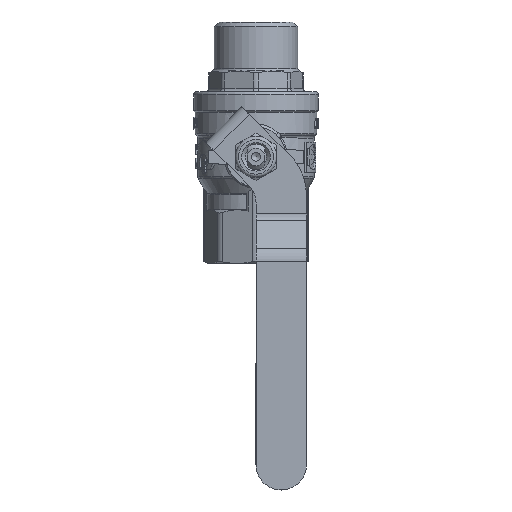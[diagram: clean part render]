
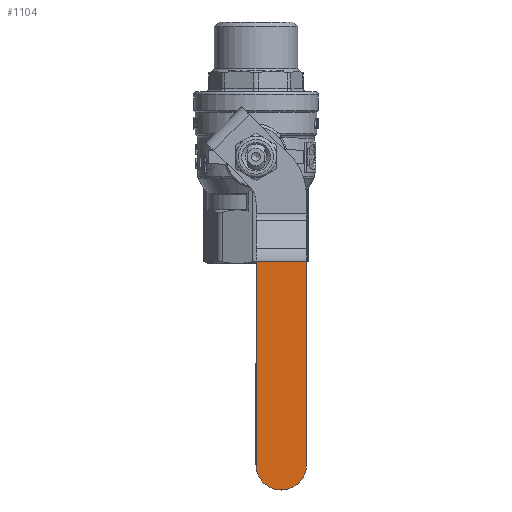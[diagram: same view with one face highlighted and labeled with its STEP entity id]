
A CAD part, top view. The second image highlights one B-rep face of the part: STEP entity #1104.
In plain terms, the highlighted planar face has unit normal (0, 0, 1).
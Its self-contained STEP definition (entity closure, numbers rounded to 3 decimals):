
#1104=ADVANCED_FACE('',(#8808),#8810,.T.);
#8808=FACE_BOUND('',#8809,.T.);
#8809=EDGE_LOOP('',(#16235,#16236,#16237,#16238));
#8810=PLANE('',#8811);
#8811=AXIS2_PLACEMENT_3D('',#8812,#8813,#8814);
#8812=CARTESIAN_POINT('',(0.,-13.851,49.885));
#8813=DIRECTION('',(0.,0.,1.));
#8814=DIRECTION('',(0.,-1.,0.));
#16235=ORIENTED_EDGE('',*,*,#19232,.F.);
#16236=ORIENTED_EDGE('',*,*,#19229,.T.);
#16237=ORIENTED_EDGE('',*,*,#19221,.T.);
#16238=ORIENTED_EDGE('',*,*,#19231,.T.);
#19221=EDGE_CURVE('',#24018,#24026,#24029,.T.);
#19229=EDGE_CURVE('',#24036,#24018,#24038,.T.);
#19231=EDGE_CURVE('',#24026,#24039,#24041,.T.);
#19232=EDGE_CURVE('',#24036,#24039,#24042,.F.);
#24018=VERTEX_POINT('',#49705);
#24026=VERTEX_POINT('',#49725);
#24029=LINE('',#49733,#49734);
#24036=VERTEX_POINT('',#49760);
#24038=LINE('',#49764,#49765);
#24039=VERTEX_POINT('',#49767);
#24041=LINE('',#49771,#49772);
#24042=CIRCLE('',#49774,8.);
#49705=CARTESIAN_POINT('',(16.,-50.963,49.885));
#49725=CARTESIAN_POINT('',(0.,-50.963,49.885));
#49733=CARTESIAN_POINT('',(16.,-50.963,49.885));
#49734=VECTOR('',#49735,1.);
#49735=DIRECTION('',(-1.,0.,0.));
#49760=CARTESIAN_POINT('',(16.,-115.478,49.885));
#49764=CARTESIAN_POINT('',(16.,-115.478,49.885));
#49765=VECTOR('',#49766,1.);
#49766=DIRECTION('',(0.,1.,0.));
#49767=CARTESIAN_POINT('',(0.,-115.478,49.885));
#49771=CARTESIAN_POINT('',(0.,-50.963,49.885));
#49772=VECTOR('',#49773,1.);
#49773=DIRECTION('',(0.,-1.,0.));
#49774=AXIS2_PLACEMENT_3D('',#49775,#49776,#49777);
#49775=CARTESIAN_POINT('',(8.,-115.478,49.885));
#49776=DIRECTION('',(0.,0.,1.));
#49777=DIRECTION('',(-1.,0.,0.));
